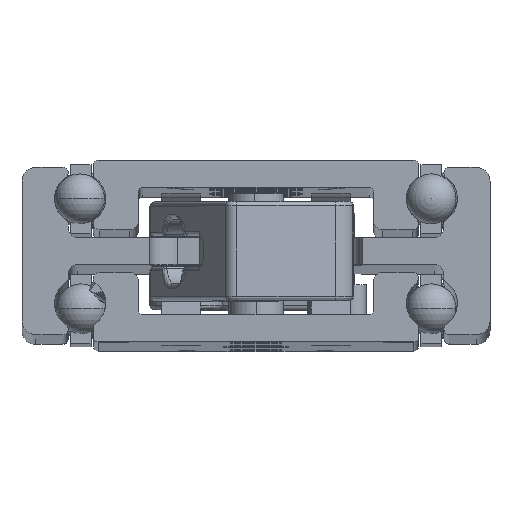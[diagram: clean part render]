
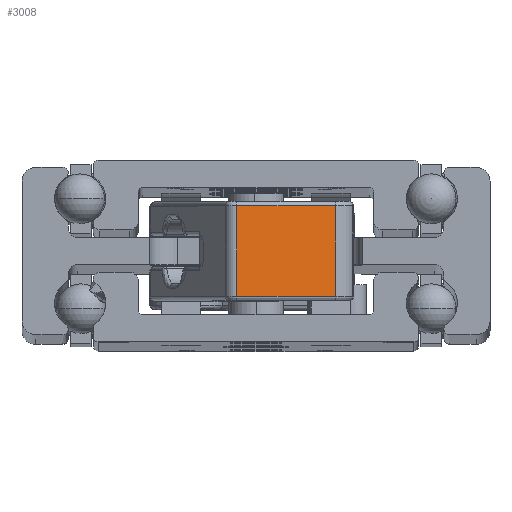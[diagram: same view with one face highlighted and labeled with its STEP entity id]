
A CAD part, top view. The second image highlights one B-rep face of the part: STEP entity #3008.
In plain terms, the highlighted planar face has unit normal (0.225, 0, 0.974) as drawn and (-1, 0, 0) by its records, which use the part's own axes.
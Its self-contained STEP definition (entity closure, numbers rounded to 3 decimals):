
#762 = DIRECTION ( 'NONE',  ( 0., 0., 1. ) ) ;
#2503 = VECTOR ( 'NONE', #21108, 1000. ) ;
#2609 = CARTESIAN_POINT ( 'NONE',  ( -37., -4., -4.9 ) ) ;
#2870 = EDGE_CURVE ( 'NONE', #3690, #17806, #12364, .T. ) ;
#3008 = ADVANCED_FACE ( 'NONE', ( #15661 ), #15235, .F. ) ;
#3478 = VERTEX_POINT ( 'NONE', #9445 ) ;
#3690 = VERTEX_POINT ( 'NONE', #12302 ) ;
#3886 = VECTOR ( 'NONE', #27054, 1000. ) ;
#4959 = ORIENTED_EDGE ( 'NONE', *, *, #5860, .T. ) ;
#5194 = LINE ( 'NONE', #20377, #6041 ) ;
#5793 = ORIENTED_EDGE ( 'NONE', *, *, #6296, .T. ) ;
#5860 = EDGE_CURVE ( 'NONE', #21228, #3690, #5194, .T. ) ;
#6041 = VECTOR ( 'NONE', #762, 1000. ) ;
#6296 = EDGE_CURVE ( 'NONE', #3478, #21228, #15476, .T. ) ;
#7694 = LINE ( 'NONE', #18285, #3886 ) ;
#7963 = AXIS2_PLACEMENT_3D ( 'NONE', #13370, #19535, #24399 ) ;
#8026 = ORIENTED_EDGE ( 'NONE', *, *, #14665, .T. ) ;
#9445 = CARTESIAN_POINT ( 'NONE',  ( -37., 8., -4.9 ) ) ;
#10209 = CARTESIAN_POINT ( 'NONE',  ( -37., 8., 4.9 ) ) ;
#12302 = CARTESIAN_POINT ( 'NONE',  ( -37., -3., 4.9 ) ) ;
#12364 = LINE ( 'NONE', #10209, #2503 ) ;
#13370 = CARTESIAN_POINT ( 'NONE',  ( -37., -4., 5.4 ) ) ;
#13515 = ORIENTED_EDGE ( 'NONE', *, *, #2870, .T. ) ;
#14665 = EDGE_CURVE ( 'NONE', #17806, #3478, #7694, .T. ) ;
#15235 = PLANE ( 'NONE',  #7963 ) ;
#15476 = LINE ( 'NONE', #2609, #26226 ) ;
#15661 = FACE_OUTER_BOUND ( 'NONE', #17960, .T. ) ;
#15762 = CARTESIAN_POINT ( 'NONE',  ( -37., -3., -4.9 ) ) ;
#17806 = VERTEX_POINT ( 'NONE', #21357 ) ;
#17960 = EDGE_LOOP ( 'NONE', ( #4959, #13515, #8026, #5793 ) ) ;
#18285 = CARTESIAN_POINT ( 'NONE',  ( -37., 8., 5.4 ) ) ;
#19535 = DIRECTION ( 'NONE',  ( 1., 0., 0. ) ) ;
#20377 = CARTESIAN_POINT ( 'NONE',  ( -37., -3., 5.4 ) ) ;
#21108 = DIRECTION ( 'NONE',  ( 0., 1., 0. ) ) ;
#21228 = VERTEX_POINT ( 'NONE', #15762 ) ;
#21357 = CARTESIAN_POINT ( 'NONE',  ( -37., 8., 4.9 ) ) ;
#24399 = DIRECTION ( 'NONE',  ( 0., 1., 0. ) ) ;
#26226 = VECTOR ( 'NONE', #26372, 1000. ) ;
#26372 = DIRECTION ( 'NONE',  ( 0., -1., 0. ) ) ;
#27054 = DIRECTION ( 'NONE',  ( 0., 0., -1. ) ) ;
